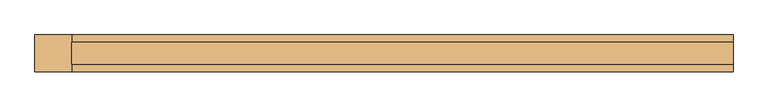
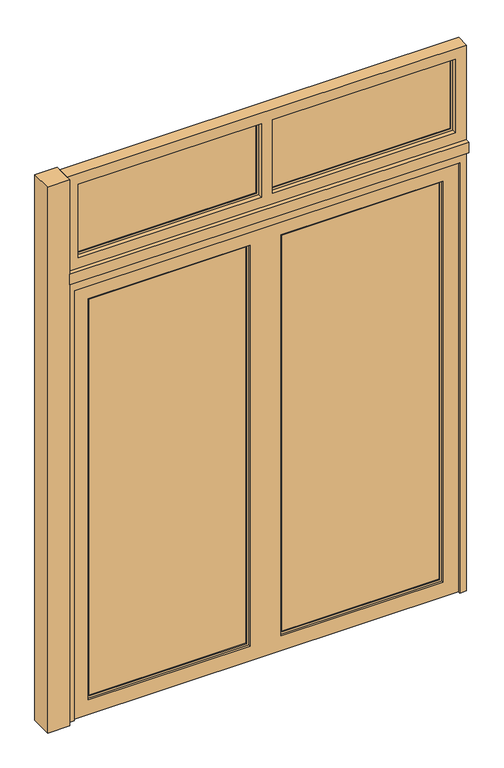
"""IFC4 building model written with IfcOpenShell, lengths in millimetres: door geometry, ARQ-PU-EX-181x260-Alu-A3 : ARQ-PU-EX-181x260-Alu-A3."""

from ifc_helpers import new_model, si_unit, frame, origin, origin_with_axes, place, context, project, spatial, polyline, outline, extrude, source, transform, mapped, element, save


def door_db755311(model_context):
    return source(origin(), model_context, "Body", "SweptSolid", [
        extrude(outline(polyline([(950.0, -50.0), (-850.0, -50.0), (-850.0, 50.0), (950.0, 50.0), (950.0, -50.0)])), frame((0.0, 0.0, 2100.0), z_axis=(0.0, 0.0, 1.0), x_axis=(1.0, 0.0, 0.0)), (0.0, 0.0, 1.0), 50.0),
        extrude(outline(polyline([(890.0, -5.0), (85.0, -5.0), (85.0, 5.0), (890.0, 5.0), (890.0, -5.0)])), frame((0.0, 0.0, 2210.0), z_axis=(0.0, 0.0, 1.0), x_axis=(1.0, 0.0, 0.0)), (0.0, 0.0, 1.0), 330.0),
        extrude(outline(polyline([(15.0, -5.0), (-790.0, -5.0), (-790.0, 5.0), (15.0, 5.0), (15.0, -5.0)])), frame((0.0, 0.0, 2210.0), z_axis=(0.0, 0.0, 1.0), x_axis=(1.0, 0.0, 0.0)), (0.0, 0.0, 1.0), 330.0),
        extrude(outline(polyline([(840.0, -5.0), (130.0, -5.0), (130.0, 5.0), (840.0, 5.0), (840.0, -5.0)])), frame((0.0, 0.0, 80.0), z_axis=(0.0, 0.0, 1.0), x_axis=(1.0, 0.0, 0.0)), (0.0, 0.0, 1.0), 1890.0),
        extrude(outline(polyline([(-30.0, -5.0), (-740.0, -5.0), (-740.0, 5.0), (-30.0, 5.0), (-30.0, -5.0)])), frame((0.0, 0.0, 80.0), z_axis=(0.0, 0.0, 1.0), x_axis=(1.0, 0.0, 0.0)), (0.0, 0.0, 1.0), 1890.0),
        extrude(outline(polyline([(2550.0, 75.0), (2200.0, 75.0), (2200.0, 900.0), (2550.0, 900.0), (2550.0, 75.0)]), holes=[polyline([(2540.0, 85.0), (2540.0, 890.0), (2210.0, 890.0), (2210.0, 85.0), (2540.0, 85.0)])]), frame((0.0, -10.0, 0.0), z_axis=(0.0, 1.0, 0.0), x_axis=(0.0, 0.0, 1.0)), (0.0, 0.0, 1.0), 20.0),
        extrude(outline(polyline([(2200.0, 25.0), (2550.0, 25.0), (2550.0, -800.0), (2200.0, -800.0), (2200.0, 25.0)]), holes=[polyline([(2210.0, 15.0), (2210.0, -790.0), (2540.0, -790.0), (2540.0, 15.0), (2210.0, 15.0)])]), frame((0.0, -10.0, 0.0), z_axis=(0.0, 1.0, 0.0), x_axis=(0.0, 0.0, 1.0)), (0.0, 0.0, 1.0), 20.0),
        extrude(outline(polyline([(1980.0, 120.0), (70.0, 120.0), (70.0, 850.0), (1980.0, 850.0), (1980.0, 120.0)]), holes=[polyline([(1970.0, 130.0), (1970.0, 840.0), (80.0, 840.0), (80.0, 130.0), (1970.0, 130.0)])]), frame((0.0, -10.0, 0.0), z_axis=(0.0, 1.0, 0.0), x_axis=(0.0, 0.0, 1.0)), (0.0, 0.0, 1.0), 20.0),
        extrude(outline(polyline([(70.0, -20.0), (1980.0, -20.0), (1980.0, -750.0), (70.0, -750.0), (70.0, -20.0)]), holes=[polyline([(80.0, -30.0), (80.0, -740.0), (1970.0, -740.0), (1970.0, -30.0), (80.0, -30.0)])]), frame((0.0, -10.0, 0.0), z_axis=(0.0, 1.0, 0.0), x_axis=(0.0, 0.0, 1.0)), (0.0, 0.0, 1.0), 20.0),
        extrude(outline(polyline([(2050.0, -820.0), (0.0, -820.0), (0.0, 920.0), (2050.0, 920.0), (2050.0, -820.0)]), holes=[polyline([(1980.0, 120.0), (1980.0, 850.0), (70.0, 850.0), (70.0, 120.0), (1980.0, 120.0)]), polyline([(70.0, -20.0), (70.0, -750.0), (1980.0, -750.0), (1980.0, -20.0), (70.0, -20.0)])]), frame((0.0, -20.0, 0.0), z_axis=(0.0, 1.0, 0.0), x_axis=(0.0, 0.0, 1.0)), (0.0, 0.0, 1.0), 40.0),
        extrude(outline(polyline([(2100.0, -850.0), (0.0, -850.0), (0.0, -820.0), (2050.0, -820.0), (2050.0, 920.0), (0.0, 920.0), (0.0, 950.0), (2100.0, 950.0), (2100.0, -850.0)])), frame((0.0, -30.0, 0.0), z_axis=(0.0, 1.0, 0.0), x_axis=(0.0, 0.0, 1.0)), (0.0, 0.0, 1.0), 60.0),
        extrude(outline(polyline([(2600.0, -850.0), (2150.0, -850.0), (2150.0, 950.0), (2600.0, 950.0), (2600.0, -850.0)]), holes=[polyline([(2200.0, 25.0), (2200.0, -800.0), (2550.0, -800.0), (2550.0, 25.0), (2200.0, 25.0)]), polyline([(2550.0, 75.0), (2550.0, 900.0), (2200.0, 900.0), (2200.0, 75.0), (2550.0, 75.0)])]), frame((0.0, -30.0, 0.0), z_axis=(0.0, 1.0, 0.0), x_axis=(0.0, 0.0, 1.0)), (0.0, 0.0, 1.0), 60.0),
        extrude(outline(polyline([(-850.0, -50.0), (-950.0, -50.0), (-950.0, 50.0), (-850.0, 50.0), (-850.0, -50.0)])), origin_with_axes(), (0.0, 0.0, 1.0), 2600.0),
    ])


if __name__ == "__main__":
    model = new_model("IFC4")
    model_context = context("Model", 3, world=origin())
    ifc_project = project(units=[si_unit("LENGTHUNIT", "METRE", prefix="MILLI")], contexts=[model_context])
    site = spatial("IfcSite", under=ifc_project)
    building = spatial("IfcBuilding", under=site)
    placement = place(None, origin())
    door_shape = door_db755311(model_context)
    element("IfcDoor", 1, ObjectType="ARQ-PU-EX-181x260-Alu-A3 : ARQ-PU-EX-181x260-Alu-A3", at=placement, inside=building, context=model_context, shape_type="MappedRepresentation", body=[
        mapped(door_shape, transform((0.0, 0.0, 0.0), x_axis=(1.0, 0.0, 0.0), y_axis=(0.0, 1.0, 0.0), z_axis=(0.0, 0.0, 1.0))),
    ])
    save(model, "model.ifc")
